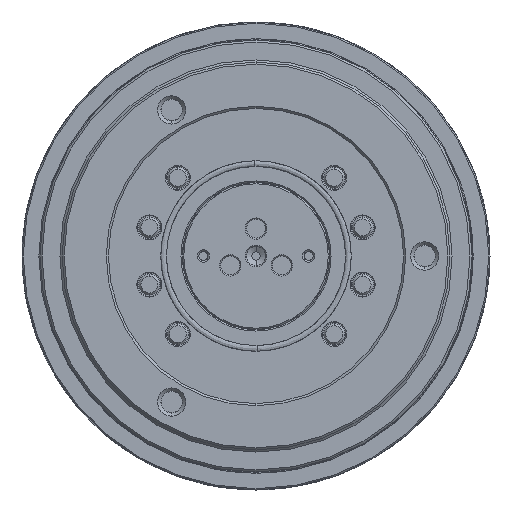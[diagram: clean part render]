
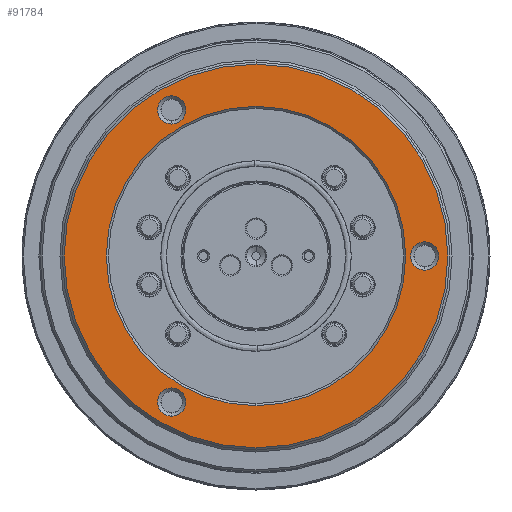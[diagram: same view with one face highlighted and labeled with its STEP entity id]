
A CAD part, left-side view. The second image highlights one B-rep face of the part: STEP entity #91784.
In plain terms, the highlighted planar face has unit normal (-1, 0, 0).
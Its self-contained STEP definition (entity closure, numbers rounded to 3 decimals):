
#388 = EDGE_CURVE ( 'NONE', #89715, #34153, #71308, .T. ) ;
#2131 = ORIENTED_EDGE ( 'NONE', *, *, #83317, .T. ) ;
#4744 = CIRCLE ( 'NONE', #88672, 71. ) ;
#5423 = EDGE_CURVE ( 'NONE', #104242, #78361, #63707, .T. ) ;
#5920 = CARTESIAN_POINT ( 'NONE',  ( -112., 40., 69.282 ) ) ;
#6528 = VERTEX_POINT ( 'NONE', #112810 ) ;
#6646 = DIRECTION ( 'NONE',  ( 1., 0., 0. ) ) ;
#7673 = DIRECTION ( 'NONE',  ( 0., 0., -1. ) ) ;
#7841 = CARTESIAN_POINT ( 'NONE',  ( -112., 0., 0. ) ) ;
#9270 = VERTEX_POINT ( 'NONE', #39299 ) ;
#10423 = CIRCLE ( 'NONE', #39506, 6.7 ) ;
#10761 = ORIENTED_EDGE ( 'NONE', *, *, #82345, .T. ) ;
#12722 = AXIS2_PLACEMENT_3D ( 'NONE', #78839, #96016, #45688 ) ;
#13414 = DIRECTION ( 'NONE',  ( 1., 0., 0. ) ) ;
#13485 = FACE_OUTER_BOUND ( 'NONE', #53903, .T. ) ;
#14625 = FACE_BOUND ( 'NONE', #86654, .T. ) ;
#16417 = AXIS2_PLACEMENT_3D ( 'NONE', #40732, #59016, #7673 ) ;
#18372 = CARTESIAN_POINT ( 'NONE',  ( -112., 0., 71. ) ) ;
#18494 = DIRECTION ( 'NONE',  ( 0., 0., -1. ) ) ;
#22039 = FACE_BOUND ( 'NONE', #102557, .T. ) ;
#23123 = VERTEX_POINT ( 'NONE', #92697 ) ;
#23754 = DIRECTION ( 'NONE',  ( 0., 0., -1. ) ) ;
#25283 = EDGE_CURVE ( 'NONE', #34153, #89715, #4744, .T. ) ;
#26316 = ORIENTED_EDGE ( 'NONE', *, *, #81222, .T. ) ;
#28358 = AXIS2_PLACEMENT_3D ( 'NONE', #112710, #96724, #18494 ) ;
#29969 = DIRECTION ( 'NONE',  ( 0., 0., -1. ) ) ;
#30447 = DIRECTION ( 'NONE',  ( 1., 0., 0. ) ) ;
#31237 = CARTESIAN_POINT ( 'NONE',  ( -112., 0., -71. ) ) ;
#32356 = AXIS2_PLACEMENT_3D ( 'NONE', #5920, #30447, #65241 ) ;
#33251 = CARTESIAN_POINT ( 'NONE',  ( -112., 0., 0. ) ) ;
#33714 = EDGE_CURVE ( 'NONE', #58860, #6528, #52430, .T. ) ;
#33959 = CIRCLE ( 'NONE', #59470, 6.7 ) ;
#34153 = VERTEX_POINT ( 'NONE', #31237 ) ;
#39072 = EDGE_CURVE ( 'NONE', #43088, #23123, #43957, .T. ) ;
#39299 = CARTESIAN_POINT ( 'NONE',  ( -112., 40., -62.582 ) ) ;
#39506 = AXIS2_PLACEMENT_3D ( 'NONE', #49989, #6646, #23754 ) ;
#40178 = CARTESIAN_POINT ( 'NONE',  ( -112., 40., 69.282 ) ) ;
#40732 = CARTESIAN_POINT ( 'NONE',  ( -112., 40., -69.282 ) ) ;
#43088 = VERTEX_POINT ( 'NONE', #70871 ) ;
#43957 = CIRCLE ( 'NONE', #104146, 6.7 ) ;
#45688 = DIRECTION ( 'NONE',  ( 0., 0., 1. ) ) ;
#49393 = DIRECTION ( 'NONE',  ( 1., 0., 0. ) ) ;
#49982 = AXIS2_PLACEMENT_3D ( 'NONE', #61241, #96091, #85217 ) ;
#49989 = CARTESIAN_POINT ( 'NONE',  ( -112., -80., 0. ) ) ;
#52430 = CIRCLE ( 'NONE', #32356, 6.7 ) ;
#53903 = EDGE_LOOP ( 'NONE', ( #112534, #82014 ) ) ;
#54260 = EDGE_CURVE ( 'NONE', #66013, #9270, #65564, .T. ) ;
#55158 = CARTESIAN_POINT ( 'NONE',  ( -112., 0., -91. ) ) ;
#56278 = PLANE ( 'NONE',  #85461 ) ;
#56843 = FACE_BOUND ( 'NONE', #110249, .T. ) ;
#57310 = CIRCLE ( 'NONE', #49982, 91. ) ;
#57400 = DIRECTION ( 'NONE',  ( 0., 0., -1. ) ) ;
#58860 = VERTEX_POINT ( 'NONE', #100530 ) ;
#59016 = DIRECTION ( 'NONE',  ( 1., 0., 0. ) ) ;
#59470 = AXIS2_PLACEMENT_3D ( 'NONE', #40178, #13414, #29969 ) ;
#61138 = CIRCLE ( 'NONE', #28358, 6.7 ) ;
#61241 = CARTESIAN_POINT ( 'NONE',  ( -112., 0., 0. ) ) ;
#62270 = ORIENTED_EDGE ( 'NONE', *, *, #39072, .T. ) ;
#62800 = CARTESIAN_POINT ( 'NONE',  ( -112., 0., 91. ) ) ;
#63707 = CIRCLE ( 'NONE', #12722, 91. ) ;
#63991 = ORIENTED_EDGE ( 'NONE', *, *, #33714, .T. ) ;
#65241 = DIRECTION ( 'NONE',  ( 0., 0., -1. ) ) ;
#65564 = CIRCLE ( 'NONE', #16417, 6.7 ) ;
#66013 = VERTEX_POINT ( 'NONE', #104308 ) ;
#67724 = DIRECTION ( 'NONE',  ( -1., 0., 0. ) ) ;
#69033 = DIRECTION ( 'NONE',  ( 1., 0., 0. ) ) ;
#70871 = CARTESIAN_POINT ( 'NONE',  ( -112., -80., 6.7 ) ) ;
#71308 = CIRCLE ( 'NONE', #102310, 71. ) ;
#72529 = ORIENTED_EDGE ( 'NONE', *, *, #25283, .F. ) ;
#74505 = ORIENTED_EDGE ( 'NONE', *, *, #54260, .T. ) ;
#78135 = DIRECTION ( 'NONE',  ( 0., 0., -1. ) ) ;
#78322 = DIRECTION ( 'NONE',  ( -1., 0., 0. ) ) ;
#78361 = VERTEX_POINT ( 'NONE', #62800 ) ;
#78839 = CARTESIAN_POINT ( 'NONE',  ( -112., 0., 0. ) ) ;
#81222 = EDGE_CURVE ( 'NONE', #9270, #66013, #61138, .T. ) ;
#82014 = ORIENTED_EDGE ( 'NONE', *, *, #98182, .T. ) ;
#82345 = EDGE_CURVE ( 'NONE', #6528, #58860, #33959, .T. ) ;
#83317 = EDGE_CURVE ( 'NONE', #23123, #43088, #10423, .T. ) ;
#83784 = ORIENTED_EDGE ( 'NONE', *, *, #388, .F. ) ;
#85217 = DIRECTION ( 'NONE',  ( 0., 0., 1. ) ) ;
#85431 = DIRECTION ( 'NONE',  ( 0., 0., 1. ) ) ;
#85461 = AXIS2_PLACEMENT_3D ( 'NONE', #92226, #49393, #57400 ) ;
#86654 = EDGE_LOOP ( 'NONE', ( #83784, #72529 ) ) ;
#86910 = DIRECTION ( 'NONE',  ( 0., 0., 1. ) ) ;
#87292 = CARTESIAN_POINT ( 'NONE',  ( -112., -80., 0. ) ) ;
#88672 = AXIS2_PLACEMENT_3D ( 'NONE', #7841, #67724, #85431 ) ;
#89715 = VERTEX_POINT ( 'NONE', #18372 ) ;
#91784 = ADVANCED_FACE ( 'NONE', ( #100271, #22039, #56843, #14625, #13485 ), #56278, .F. ) ;
#92226 = CARTESIAN_POINT ( 'NONE',  ( -112., 71., 0. ) ) ;
#92697 = CARTESIAN_POINT ( 'NONE',  ( -112., -80., -6.7 ) ) ;
#93209 = EDGE_LOOP ( 'NONE', ( #62270, #2131 ) ) ;
#96016 = DIRECTION ( 'NONE',  ( -1., 0., 0. ) ) ;
#96091 = DIRECTION ( 'NONE',  ( -1., 0., 0. ) ) ;
#96724 = DIRECTION ( 'NONE',  ( 1., 0., 0. ) ) ;
#98182 = EDGE_CURVE ( 'NONE', #78361, #104242, #57310, .T. ) ;
#100271 = FACE_BOUND ( 'NONE', #93209, .T. ) ;
#100530 = CARTESIAN_POINT ( 'NONE',  ( -112., 40., 62.582 ) ) ;
#102310 = AXIS2_PLACEMENT_3D ( 'NONE', #33251, #78322, #86910 ) ;
#102557 = EDGE_LOOP ( 'NONE', ( #10761, #63991 ) ) ;
#104146 = AXIS2_PLACEMENT_3D ( 'NONE', #87292, #69033, #78135 ) ;
#104242 = VERTEX_POINT ( 'NONE', #55158 ) ;
#104308 = CARTESIAN_POINT ( 'NONE',  ( -112., 40., -75.982 ) ) ;
#110249 = EDGE_LOOP ( 'NONE', ( #26316, #74505 ) ) ;
#112534 = ORIENTED_EDGE ( 'NONE', *, *, #5423, .T. ) ;
#112710 = CARTESIAN_POINT ( 'NONE',  ( -112., 40., -69.282 ) ) ;
#112810 = CARTESIAN_POINT ( 'NONE',  ( -112., 40., 75.982 ) ) ;
